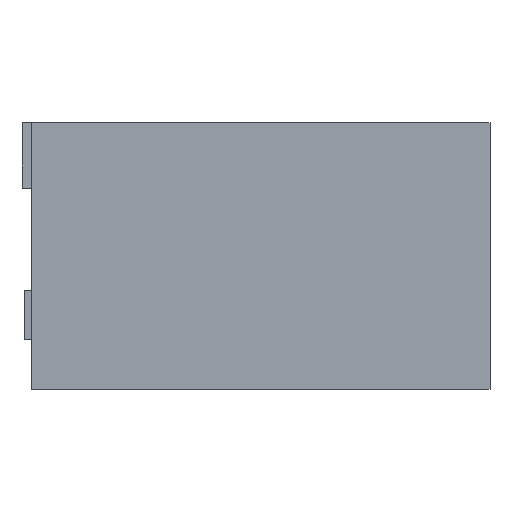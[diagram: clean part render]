
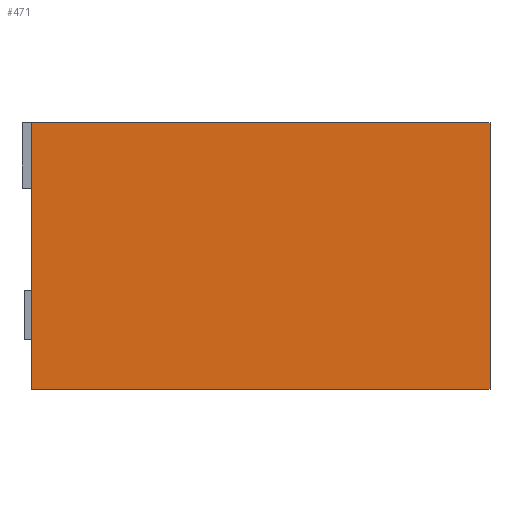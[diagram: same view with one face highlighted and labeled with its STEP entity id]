
A CAD part, front view. The second image highlights one B-rep face of the part: STEP entity #471.
In plain terms, the highlighted planar face has unit normal (0, -1, 0).
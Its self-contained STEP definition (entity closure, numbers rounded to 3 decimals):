
#471=ADVANCED_FACE('',(#755),#3923,.T.);
#755=FACE_OUTER_BOUND('',#1039,.T.);
#1039=EDGE_LOOP('',(#2164,#2165,#2166,#2167));
#2164=ORIENTED_EDGE('',*,*,#2722,.T.);
#2165=ORIENTED_EDGE('',*,*,#2726,.T.);
#2166=ORIENTED_EDGE('',*,*,#2729,.T.);
#2167=ORIENTED_EDGE('',*,*,#2731,.T.);
#2722=EDGE_CURVE('',#3643,#3642,#3262,.T.);
#2726=EDGE_CURVE('',#3642,#3645,#3266,.T.);
#2729=EDGE_CURVE('',#3645,#3647,#3269,.T.);
#2731=EDGE_CURVE('',#3647,#3643,#3271,.T.);
#3262=B_SPLINE_CURVE_WITH_KNOTS('',1,(#6394,#6395),.UNSPECIFIED.,.F.,.F.,
(2,2),(0.,111.8),.UNSPECIFIED.);
#3266=B_SPLINE_CURVE_WITH_KNOTS('',1,(#6402,#6403),.UNSPECIFIED.,.F.,.F.,
(2,2),(111.8,176.8),.UNSPECIFIED.);
#3269=B_SPLINE_CURVE_WITH_KNOTS('',1,(#6408,#6409),.UNSPECIFIED.,.F.,.F.,
(2,2),(176.8,288.6),.UNSPECIFIED.);
#3271=B_SPLINE_CURVE_WITH_KNOTS('',1,(#6412,#6413),.UNSPECIFIED.,.F.,.F.,
(2,2),(288.6,353.6),.UNSPECIFIED.);
#3642=VERTEX_POINT('',#6384);
#3643=VERTEX_POINT('',#6385);
#3645=VERTEX_POINT('',#6387);
#3647=VERTEX_POINT('',#6389);
#3923=PLANE('',#4219);
#4219=AXIS2_PLACEMENT_3D('',#6381,#4498,$);
#4498=DIRECTION('',(0.,-1.,0.));
#6381=CARTESIAN_POINT('',(-70.958,-134.727,79.596));
#6384=CARTESIAN_POINT('',(-182.758,-134.727,79.596));
#6385=CARTESIAN_POINT('',(-70.958,-134.727,79.596));
#6387=CARTESIAN_POINT('',(-182.758,-134.727,14.596));
#6389=CARTESIAN_POINT('',(-70.958,-134.727,14.596));
#6394=CARTESIAN_POINT('',(-70.958,-134.727,79.596));
#6395=CARTESIAN_POINT('',(-182.758,-134.727,79.596));
#6402=CARTESIAN_POINT('',(-182.758,-134.727,79.596));
#6403=CARTESIAN_POINT('',(-182.758,-134.727,14.596));
#6408=CARTESIAN_POINT('',(-182.758,-134.727,14.596));
#6409=CARTESIAN_POINT('',(-70.958,-134.727,14.596));
#6412=CARTESIAN_POINT('',(-70.958,-134.727,14.596));
#6413=CARTESIAN_POINT('',(-70.958,-134.727,79.596));
